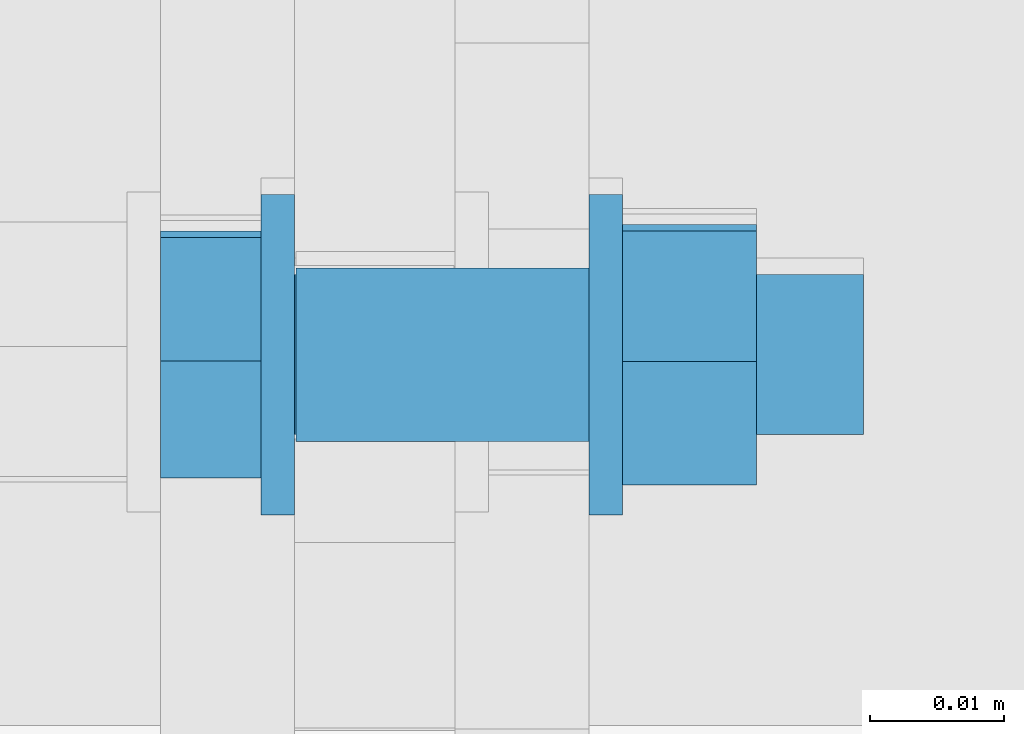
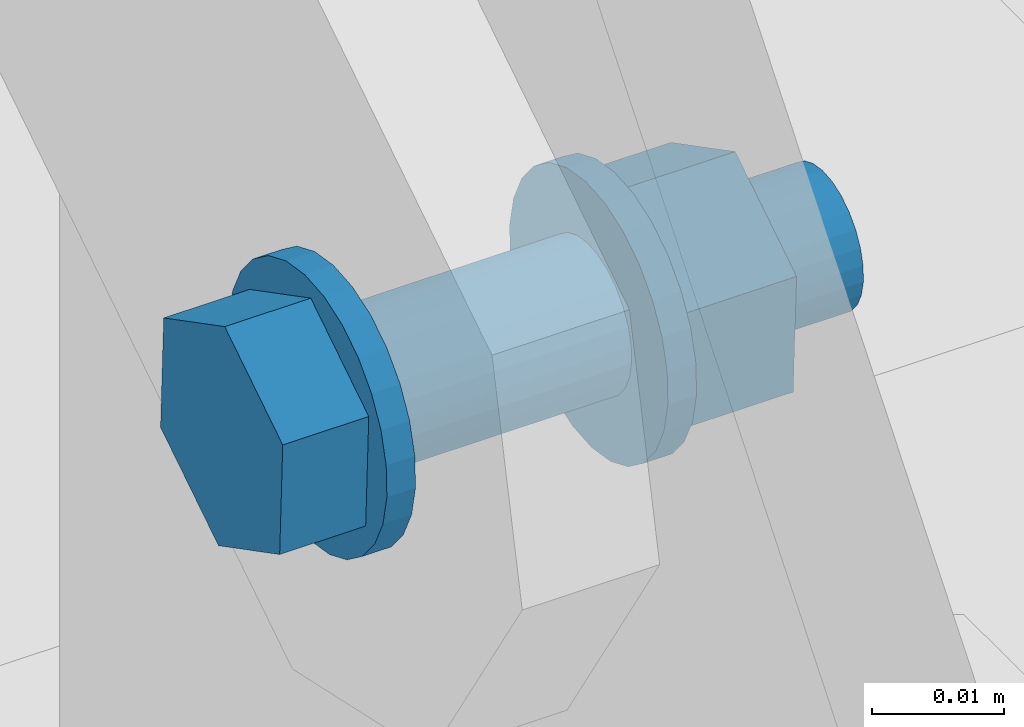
# One storey, part 228 of 271: 1 mechanical fastener, 1 element without a shape of its own.
"""IFC2X3 building model written with IfcOpenShell, lengths in millimetres."""

from ifc_helpers import new_model, si_unit, frame, origin_with_axes, origin_2d_with_axis, place, context, subcontext, project, spatial, polyline, circle, outline, extrude, source, transform, mapped, material, type_object, element, aggregate, save


model = new_model("IFC2X3")

# Units and contexts
model_context = context("Model", 3, precision=1e-05, world=origin_with_axes())
body_context = subcontext(model_context, "Body", "Model", "MODEL_VIEW")
ifc_project = project(units=[si_unit("LENGTHUNIT", "METRE", prefix="MILLI"), si_unit("AREAUNIT", "SQUARE_METRE"), si_unit("VOLUMEUNIT", "CUBIC_METRE"), si_unit("MASSUNIT", "GRAM", prefix="KILO"), si_unit("TIMEUNIT", "SECOND"), si_unit("PLANEANGLEUNIT", "RADIAN"), si_unit("SOLIDANGLEUNIT", "STERADIAN"), si_unit("THERMODYNAMICTEMPERATUREUNIT", "DEGREE_CELSIUS"), si_unit("LUMINOUSINTENSITYUNIT", "LUMEN")], contexts=[model_context])

# Site, building, storey
site_placement = place(None, origin_with_axes())
site = spatial("IfcSite", under=ifc_project, at=site_placement, Name="Undefined", CompositionType="ELEMENT")
building_placement = place(site_placement, origin_with_axes())
building = spatial("IfcBuilding", under=site, at=building_placement, Name="Undefined", CompositionType="ELEMENT")
storey_placement = place(building_placement, origin_with_axes())
storey = spatial("IfcBuildingStorey", under=building, at=storey_placement, Name="Undefined", CompositionType="ELEMENT", Elevation=0.0)

# Assembly, mechanical fastener
assembly_placement = place(storey_placement, origin_with_axes())
assembly = element("IfcElementAssembly", 1, at=assembly_placement, inside=storey, AssemblyPlace="NOTDEFINED", PredefinedType="RIGID_FRAME")
ifc_material = material(Name="Undefined")
mechanical_fastener_type = type_object("IfcMechanicalFastenerType", Name="Bolt assembly")
shared_shape = source(origin_with_axes(), body_context, "Body", "SweptSolid", [
    extrude(circle(Radius=6.5, at=origin_2d_with_axis()), frame((0.0, -5.1, 0.0), z_axis=(0.0, 1.0, 0.0), x_axis=(1.0, 0.0, 0.0)), (0.0, 0.0, 1.0), 10.1),
    extrude(circle(Radius=6.5, at=origin_2d_with_axis()), frame((0.0, -16.9, 0.0), z_axis=(0.0, 1.0, 0.0), x_axis=(1.0, 0.0, 0.0)), (0.0, 0.0, 1.0), 12.0),
    extrude(outline(polyline([(10.39230484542, 0.0), (5.19615242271, 9.00000000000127), (-5.19615242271, 9.00000000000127), (-10.39230484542, 0.0), (-5.19615242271, -9.00000000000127), (5.19615242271, -9.00000000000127), (10.39230484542, 0.0)])), frame((0.0, -27.0, 0.0), z_axis=(0.0, 1.0, 0.0), x_axis=(1.0, 0.0, 0.0)), (0.0, 0.0, 1.0), 7.5),
    extrude(circle(Radius=6.0, at=origin_2d_with_axis()), frame((0.0, -19.5, 0.0), z_axis=(0.0, 1.0, 0.0), x_axis=(1.0, 0.0, 0.0)), (0.0, 0.0, 1.0), 45.0),
    extrude(circle(Radius=12.0, at=origin_2d_with_axis()), frame((0.0, -19.5, 0.0), z_axis=(0.0, 1.0, 0.0), x_axis=(1.0, 0.0, 0.0)), (0.0, 0.0, 1.0), 2.5),
    extrude(circle(Radius=12.0, at=origin_2d_with_axis()), frame((0.0, 5.00000000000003, 0.0), z_axis=(0.0, 1.0, 0.0), x_axis=(1.0, 0.0, 0.0)), (0.0, 0.0, 1.0), 2.5),
    extrude(outline(polyline([(10.96965511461, 0.0), (5.484827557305, 9.50000000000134), (-5.484827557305, 9.50000000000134), (-10.96965511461, 0.0), (-5.484827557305, -9.50000000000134), (5.484827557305, -9.50000000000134), (10.96965511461, 0.0)])), frame((0.0, 7.50000000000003, 0.0), z_axis=(0.0, 1.0, 0.0), x_axis=(1.0, 0.0, 0.0)), (0.0, 0.0, 1.0), 10.0),
])
mechanical_fastener_placement = place(assembly_placement, frame((110.000000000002, 163.279991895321, 76.4052268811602), z_axis=(0.0, 0.538389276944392, -0.842696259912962), x_axis=(0.0, 0.842696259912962, 0.538389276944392)))
mechanical_fastener = element("IfcMechanicalFastener", 2, at=mechanical_fastener_placement, type_object=mechanical_fastener_type, material=ifc_material, Name="Bolt assembly", NominalDiameter=12.0, NominalLength=45.0, context=body_context, shape_type="MappedRepresentation", body=[
    mapped(shared_shape, transform((0.0, 0.0, 0.0))),
])
aggregate(assembly, [mechanical_fastener])

save(model, "model.ifc")
